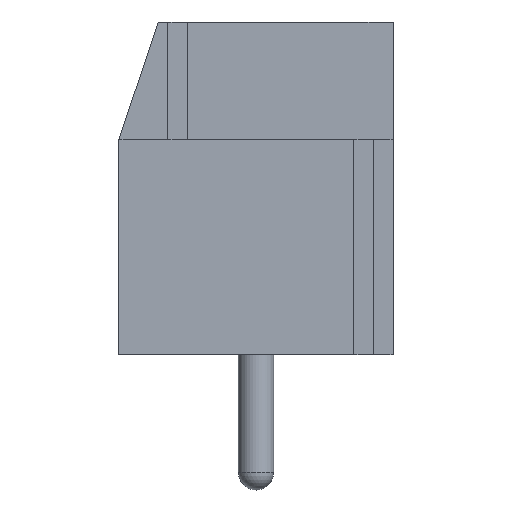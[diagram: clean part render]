
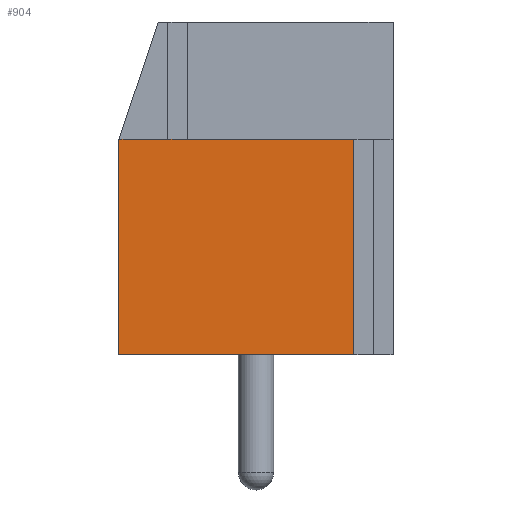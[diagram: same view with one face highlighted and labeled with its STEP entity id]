
A CAD part, left-side view. The second image highlights one B-rep face of the part: STEP entity #904.
In plain terms, the highlighted planar face has unit normal (-1, 0, 0).
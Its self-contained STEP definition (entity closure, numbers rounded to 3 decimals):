
#72 = PLANE('',#73);
#73 = AXIS2_PLACEMENT_3D('',#74,#75,#76);
#74 = CARTESIAN_POINT('',(-1.75,-3.5,0.));
#75 = DIRECTION('',(0.,0.,1.));
#76 = DIRECTION('',(1.,0.,0.));
#126 = PLANE('',#127);
#127 = AXIS2_PLACEMENT_3D('',#128,#129,#130);
#128 = CARTESIAN_POINT('',(-1.75,-0.209,6.922));
#129 = DIRECTION('',(-1.,-0.,-0.));
#130 = DIRECTION('',(0.,0.,-1.));
#275 = VERTEX_POINT('',#276);
#276 = CARTESIAN_POINT('',(-1.75,1.75,5.5));
#300 = EDGE_CURVE('',#301,#275,#303,.T.);
#301 = VERTEX_POINT('',#302);
#302 = CARTESIAN_POINT('',(-1.75,-2.5,5.5));
#303 = SURFACE_CURVE('',#304,(#308,#315),.PCURVE_S1.);
#304 = LINE('',#305,#306);
#305 = CARTESIAN_POINT('',(-1.75,-3.5,5.5));
#306 = VECTOR('',#307,1.);
#307 = DIRECTION('',(0.,1.,0.));
#308 = PCURVE('',#126,#309);
#309 = DEFINITIONAL_REPRESENTATION('',(#310),#314);
#310 = LINE('',#311,#312);
#311 = CARTESIAN_POINT('',(1.422,3.291));
#312 = VECTOR('',#313,1.);
#313 = DIRECTION('',(0.,-1.));
#314 = ( GEOMETRIC_REPRESENTATION_CONTEXT(2) 
PARAMETRIC_REPRESENTATION_CONTEXT() REPRESENTATION_CONTEXT('2D SPACE',''
  ) );
#315 = PCURVE('',#316,#321);
#316 = PLANE('',#317);
#317 = AXIS2_PLACEMENT_3D('',#318,#319,#320);
#318 = CARTESIAN_POINT('',(-1.75,-3.5,0.));
#319 = DIRECTION('',(1.,0.,0.));
#320 = DIRECTION('',(0.,0.,1.));
#321 = DEFINITIONAL_REPRESENTATION('',(#322),#326);
#322 = LINE('',#323,#324);
#323 = CARTESIAN_POINT('',(5.5,0.));
#324 = VECTOR('',#325,1.);
#325 = DIRECTION('',(0.,-1.));
#326 = ( GEOMETRIC_REPRESENTATION_CONTEXT(2) 
PARAMETRIC_REPRESENTATION_CONTEXT() REPRESENTATION_CONTEXT('2D SPACE',''
  ) );
#619 = VERTEX_POINT('',#620);
#620 = CARTESIAN_POINT('',(-1.75,3.5,0.));
#634 = PLANE('',#635);
#635 = AXIS2_PLACEMENT_3D('',#636,#637,#638);
#636 = CARTESIAN_POINT('',(-1.75,3.5,0.));
#637 = DIRECTION('',(0.,1.,0.));
#638 = DIRECTION('',(0.,0.,1.));
#646 = EDGE_CURVE('',#647,#619,#649,.T.);
#647 = VERTEX_POINT('',#648);
#648 = CARTESIAN_POINT('',(-1.75,-2.5,0.));
#649 = SURFACE_CURVE('',#650,(#654,#661),.PCURVE_S1.);
#650 = LINE('',#651,#652);
#651 = CARTESIAN_POINT('',(-1.75,-3.5,0.));
#652 = VECTOR('',#653,1.);
#653 = DIRECTION('',(0.,1.,0.));
#654 = PCURVE('',#72,#655);
#655 = DEFINITIONAL_REPRESENTATION('',(#656),#660);
#656 = LINE('',#657,#658);
#657 = CARTESIAN_POINT('',(0.,0.));
#658 = VECTOR('',#659,1.);
#659 = DIRECTION('',(0.,1.));
#660 = ( GEOMETRIC_REPRESENTATION_CONTEXT(2) 
PARAMETRIC_REPRESENTATION_CONTEXT() REPRESENTATION_CONTEXT('2D SPACE',''
  ) );
#661 = PCURVE('',#316,#662);
#662 = DEFINITIONAL_REPRESENTATION('',(#663),#667);
#663 = LINE('',#664,#665);
#664 = CARTESIAN_POINT('',(0.,0.));
#665 = VECTOR('',#666,1.);
#666 = DIRECTION('',(0.,-1.));
#667 = ( GEOMETRIC_REPRESENTATION_CONTEXT(2) 
PARAMETRIC_REPRESENTATION_CONTEXT() REPRESENTATION_CONTEXT('2D SPACE',''
  ) );
#893 = PLANE('',#894);
#894 = AXIS2_PLACEMENT_3D('',#895,#896,#897);
#895 = CARTESIAN_POINT('',(-2.15,-2.5,0.));
#896 = DIRECTION('',(0.,1.,0.));
#897 = DIRECTION('',(0.,0.,1.));
#904 = ADVANCED_FACE('',(#905),#316,.F.);
#905 = FACE_BOUND('',#906,.F.);
#906 = EDGE_LOOP('',(#907,#928,#929,#952,#980,#1006));
#907 = ORIENTED_EDGE('',*,*,#908,.F.);
#908 = EDGE_CURVE('',#647,#301,#909,.T.);
#909 = SURFACE_CURVE('',#910,(#914,#921),.PCURVE_S1.);
#910 = LINE('',#911,#912);
#911 = CARTESIAN_POINT('',(-1.75,-2.5,0.));
#912 = VECTOR('',#913,1.);
#913 = DIRECTION('',(0.,0.,1.));
#914 = PCURVE('',#316,#915);
#915 = DEFINITIONAL_REPRESENTATION('',(#916),#920);
#916 = LINE('',#917,#918);
#917 = CARTESIAN_POINT('',(0.,-1.));
#918 = VECTOR('',#919,1.);
#919 = DIRECTION('',(1.,0.));
#920 = ( GEOMETRIC_REPRESENTATION_CONTEXT(2) 
PARAMETRIC_REPRESENTATION_CONTEXT() REPRESENTATION_CONTEXT('2D SPACE',''
  ) );
#921 = PCURVE('',#893,#922);
#922 = DEFINITIONAL_REPRESENTATION('',(#923),#927);
#923 = LINE('',#924,#925);
#924 = CARTESIAN_POINT('',(0.,0.4));
#925 = VECTOR('',#926,1.);
#926 = DIRECTION('',(1.,0.));
#927 = ( GEOMETRIC_REPRESENTATION_CONTEXT(2) 
PARAMETRIC_REPRESENTATION_CONTEXT() REPRESENTATION_CONTEXT('2D SPACE',''
  ) );
#928 = ORIENTED_EDGE('',*,*,#646,.T.);
#929 = ORIENTED_EDGE('',*,*,#930,.T.);
#930 = EDGE_CURVE('',#619,#931,#933,.T.);
#931 = VERTEX_POINT('',#932);
#932 = CARTESIAN_POINT('',(-1.75,3.5,5.5));
#933 = SURFACE_CURVE('',#934,(#938,#945),.PCURVE_S1.);
#934 = LINE('',#935,#936);
#935 = CARTESIAN_POINT('',(-1.75,3.5,0.));
#936 = VECTOR('',#937,1.);
#937 = DIRECTION('',(0.,0.,1.));
#938 = PCURVE('',#316,#939);
#939 = DEFINITIONAL_REPRESENTATION('',(#940),#944);
#940 = LINE('',#941,#942);
#941 = CARTESIAN_POINT('',(0.,-7.));
#942 = VECTOR('',#943,1.);
#943 = DIRECTION('',(1.,0.));
#944 = ( GEOMETRIC_REPRESENTATION_CONTEXT(2) 
PARAMETRIC_REPRESENTATION_CONTEXT() REPRESENTATION_CONTEXT('2D SPACE',''
  ) );
#945 = PCURVE('',#634,#946);
#946 = DEFINITIONAL_REPRESENTATION('',(#947),#951);
#947 = LINE('',#948,#949);
#948 = CARTESIAN_POINT('',(0.,0.));
#949 = VECTOR('',#950,1.);
#950 = DIRECTION('',(1.,0.));
#951 = ( GEOMETRIC_REPRESENTATION_CONTEXT(2) 
PARAMETRIC_REPRESENTATION_CONTEXT() REPRESENTATION_CONTEXT('2D SPACE',''
  ) );
#952 = ORIENTED_EDGE('',*,*,#953,.F.);
#953 = EDGE_CURVE('',#954,#931,#956,.T.);
#954 = VERTEX_POINT('',#955);
#955 = CARTESIAN_POINT('',(-1.75,2.25,5.5));
#956 = SURFACE_CURVE('',#957,(#961,#968),.PCURVE_S1.);
#957 = LINE('',#958,#959);
#958 = CARTESIAN_POINT('',(-1.75,-3.5,5.5));
#959 = VECTOR('',#960,1.);
#960 = DIRECTION('',(0.,1.,0.));
#961 = PCURVE('',#316,#962);
#962 = DEFINITIONAL_REPRESENTATION('',(#963),#967);
#963 = LINE('',#964,#965);
#964 = CARTESIAN_POINT('',(5.5,0.));
#965 = VECTOR('',#966,1.);
#966 = DIRECTION('',(0.,-1.));
#967 = ( GEOMETRIC_REPRESENTATION_CONTEXT(2) 
PARAMETRIC_REPRESENTATION_CONTEXT() REPRESENTATION_CONTEXT('2D SPACE',''
  ) );
#968 = PCURVE('',#969,#974);
#969 = PLANE('',#970);
#970 = AXIS2_PLACEMENT_3D('',#971,#972,#973);
#971 = CARTESIAN_POINT('',(-1.75,-0.209,6.922));
#972 = DIRECTION('',(-1.,-0.,-0.));
#973 = DIRECTION('',(0.,0.,-1.));
#974 = DEFINITIONAL_REPRESENTATION('',(#975),#979);
#975 = LINE('',#976,#977);
#976 = CARTESIAN_POINT('',(1.422,3.291));
#977 = VECTOR('',#978,1.);
#978 = DIRECTION('',(0.,-1.));
#979 = ( GEOMETRIC_REPRESENTATION_CONTEXT(2) 
PARAMETRIC_REPRESENTATION_CONTEXT() REPRESENTATION_CONTEXT('2D SPACE',''
  ) );
#980 = ORIENTED_EDGE('',*,*,#981,.F.);
#981 = EDGE_CURVE('',#275,#954,#982,.T.);
#982 = SURFACE_CURVE('',#983,(#987,#994),.PCURVE_S1.);
#983 = LINE('',#984,#985);
#984 = CARTESIAN_POINT('',(-1.75,-3.5,5.5));
#985 = VECTOR('',#986,1.);
#986 = DIRECTION('',(0.,1.,0.));
#987 = PCURVE('',#316,#988);
#988 = DEFINITIONAL_REPRESENTATION('',(#989),#993);
#989 = LINE('',#990,#991);
#990 = CARTESIAN_POINT('',(5.5,0.));
#991 = VECTOR('',#992,1.);
#992 = DIRECTION('',(0.,-1.));
#993 = ( GEOMETRIC_REPRESENTATION_CONTEXT(2) 
PARAMETRIC_REPRESENTATION_CONTEXT() REPRESENTATION_CONTEXT('2D SPACE',''
  ) );
#994 = PCURVE('',#995,#1000);
#995 = PLANE('',#996);
#996 = AXIS2_PLACEMENT_3D('',#997,#998,#999);
#997 = CARTESIAN_POINT('',(-1.85,1.75,5.5));
#998 = DIRECTION('',(0.,0.,1.));
#999 = DIRECTION('',(1.,0.,0.));
#1000 = DEFINITIONAL_REPRESENTATION('',(#1001),#1005);
#1001 = LINE('',#1002,#1003);
#1002 = CARTESIAN_POINT('',(0.1,-5.25));
#1003 = VECTOR('',#1004,1.);
#1004 = DIRECTION('',(0.,1.));
#1005 = ( GEOMETRIC_REPRESENTATION_CONTEXT(2) 
PARAMETRIC_REPRESENTATION_CONTEXT() REPRESENTATION_CONTEXT('2D SPACE',''
  ) );
#1006 = ORIENTED_EDGE('',*,*,#300,.F.);
